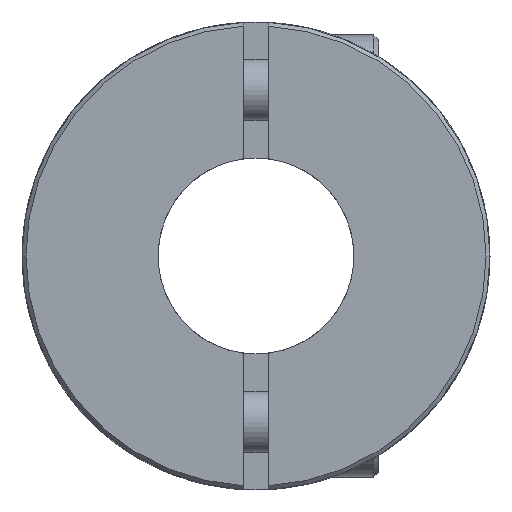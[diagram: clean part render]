
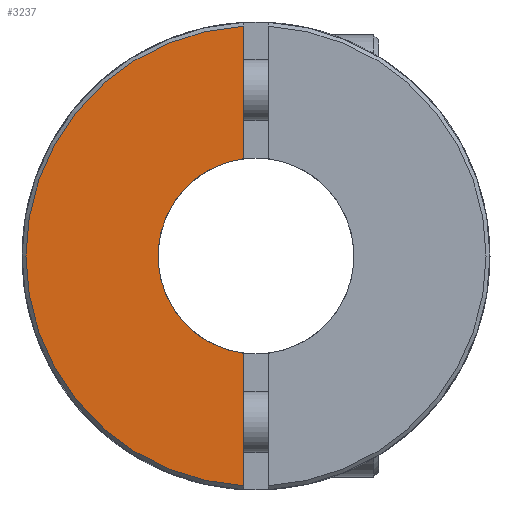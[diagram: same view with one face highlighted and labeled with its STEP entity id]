
A CAD part, front view. The second image highlights one B-rep face of the part: STEP entity #3237.
In plain terms, the highlighted planar face has unit normal (0, -1, 0).
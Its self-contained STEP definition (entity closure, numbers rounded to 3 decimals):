
#1=DIRECTION('',(0.,0.,-1.));
#2=VECTOR('',#1,5.408);
#3=CARTESIAN_POINT('',(-0.5,-11.45,9.377));
#4=LINE('',#3,#2);
#5=DIRECTION('',(0.,0.,-1.));
#6=VECTOR('',#5,5.408);
#7=CARTESIAN_POINT('',(-0.5,-11.45,-3.969));
#8=LINE('',#7,#6);
#72=CARTESIAN_POINT('',(0.,-11.45,0.));
#73=DIRECTION('',(0.,1.,0.));
#74=DIRECTION('',(-0.125,0.,-0.992));
#75=AXIS2_PLACEMENT_3D('',#72,#73,#74);
#2369=CARTESIAN_POINT('',(0.,-11.45,0.));
#2370=DIRECTION('',(0.,-1.,0.));
#2371=DIRECTION('',(-0.053,0.,0.999));
#2372=AXIS2_PLACEMENT_3D('',#2369,#2370,#2371);
#2955=CARTESIAN_POINT('',(-0.5,-11.45,9.377));
#2956=CARTESIAN_POINT('',(-0.5,-11.45,3.969));
#2957=VERTEX_POINT('',#2955);
#2958=VERTEX_POINT('',#2956);
#2959=CARTESIAN_POINT('',(-0.5,-11.45,-3.969));
#2960=CARTESIAN_POINT('',(-0.5,-11.45,-9.377));
#2961=VERTEX_POINT('',#2959);
#2962=VERTEX_POINT('',#2960);
#3222=CARTESIAN_POINT('',(0.,-11.45,0.));
#3223=DIRECTION('',(0.,1.,0.));
#3224=DIRECTION('',(1.,0.,0.));
#3225=AXIS2_PLACEMENT_3D('',#3222,#3223,#3224);
#3226=PLANE('',#3225);
#3228=ORIENTED_EDGE('',*,*,#3227,.T.);
#3230=ORIENTED_EDGE('',*,*,#3229,.F.);
#3232=ORIENTED_EDGE('',*,*,#3231,.T.);
#3234=ORIENTED_EDGE('',*,*,#3233,.F.);
#3235=EDGE_LOOP('',(#3228,#3230,#3232,#3234));
#3236=FACE_OUTER_BOUND('',#3235,.F.);
#3237=ADVANCED_FACE('',(#3236),#3226,.F.);
#76=CIRCLE('',#75,4.);
#2373=CIRCLE('',#2372,9.39);
#3227=EDGE_CURVE('',#2957,#2958,#4,.T.);
#3229=EDGE_CURVE('',#2961,#2958,#76,.T.);
#3231=EDGE_CURVE('',#2961,#2962,#8,.T.);
#3233=EDGE_CURVE('',#2957,#2962,#2373,.T.);
